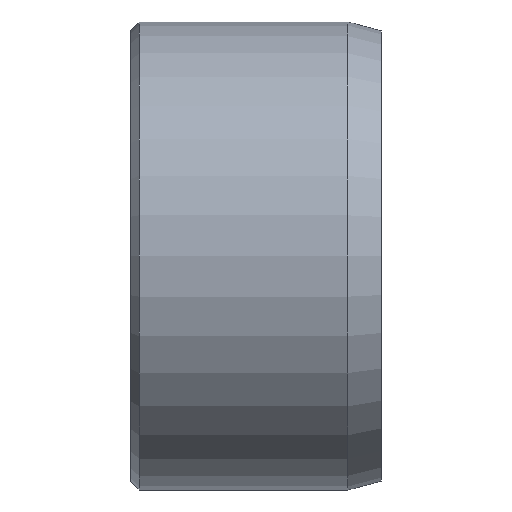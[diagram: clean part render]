
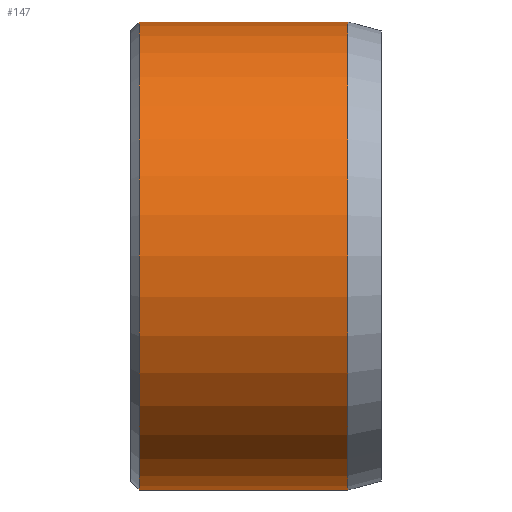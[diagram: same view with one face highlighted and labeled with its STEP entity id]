
A CAD part, front view. The second image highlights one B-rep face of the part: STEP entity #147.
In plain terms, the highlighted cylindrical face has radius 14 mm (diameter 28 mm), a full revolution.
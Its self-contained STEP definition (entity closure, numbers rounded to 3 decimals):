
#25=FACE_OUTER_BOUND('',#35,.T.);
#35=EDGE_LOOP('',(#105,#106,#107,#108));
#47=LINE('',#265,#53);
#53=VECTOR('',#210,14.);
#59=CIRCLE('',#181,14.);
#60=CIRCLE('',#182,14.);
#73=VERTEX_POINT('',#262);
#74=VERTEX_POINT('',#264);
#85=EDGE_CURVE('',#73,#73,#59,.T.);
#86=EDGE_CURVE('',#73,#74,#47,.T.);
#87=EDGE_CURVE('',#74,#74,#60,.T.);
#105=ORIENTED_EDGE('',*,*,#85,.F.);
#106=ORIENTED_EDGE('',*,*,#86,.T.);
#107=ORIENTED_EDGE('',*,*,#87,.T.);
#108=ORIENTED_EDGE('',*,*,#86,.F.);
#145=CYLINDRICAL_SURFACE('',#180,14.);
#147=ADVANCED_FACE('',(#25),#145,.T.);
#180=AXIS2_PLACEMENT_3D('',#261,#206,#207);
#181=AXIS2_PLACEMENT_3D('',#263,#208,#209);
#182=AXIS2_PLACEMENT_3D('',#266,#211,#212);
#206=DIRECTION('center_axis',(1.,0.,0.));
#207=DIRECTION('ref_axis',(0.,1.,0.));
#208=DIRECTION('center_axis',(1.,0.,0.));
#209=DIRECTION('ref_axis',(0.,0.,-1.));
#210=DIRECTION('',(-1.,0.,0.));
#211=DIRECTION('center_axis',(1.,0.,0.));
#212=DIRECTION('ref_axis',(0.,0.,-1.));
#261=CARTESIAN_POINT('Origin',(6.75,0.,0.));
#262=CARTESIAN_POINT('',(13.,-14.,0.));
#263=CARTESIAN_POINT('Origin',(13.,0.,0.));
#264=CARTESIAN_POINT('',(0.5,-14.,0.));
#265=CARTESIAN_POINT('',(6.75,-14.,0.));
#266=CARTESIAN_POINT('Origin',(0.5,0.,0.));
